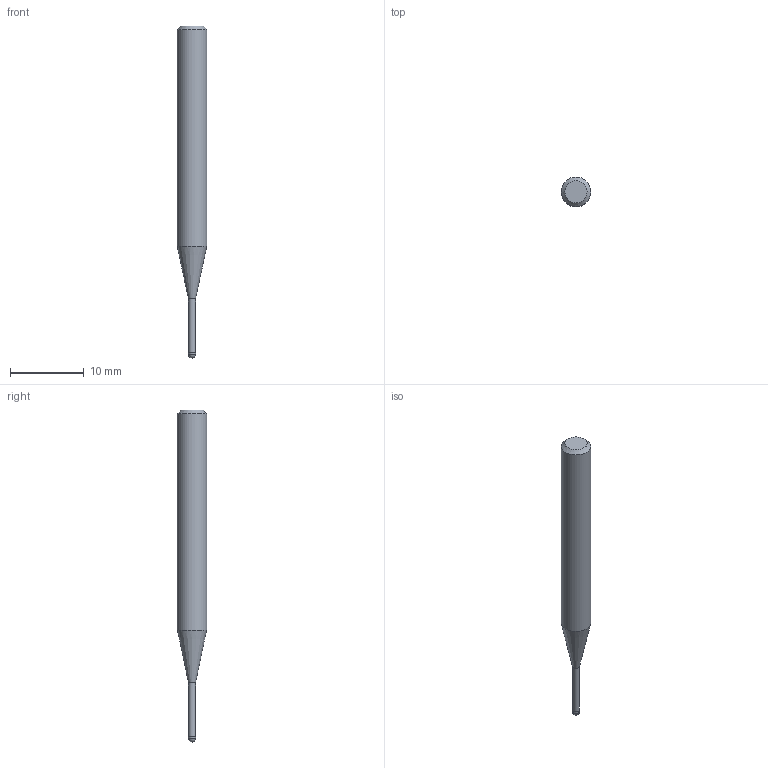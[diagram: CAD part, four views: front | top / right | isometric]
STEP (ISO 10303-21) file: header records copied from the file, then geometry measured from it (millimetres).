
FILE_DESCRIPTION((''),'2;1');
FILE_NAME('C:\Users\nsx150\AppData\Local\Temp\Mastercam 2021\3SYKECWX22\TEMP.step','2021-04-22T10:02:16',(''),(''),'STEP Write','Mastercam 2021 ... CNC Software, Inc.','');
FILE_SCHEMA(('AUTOMOTIVE_DESIGN'));
Length unit declared in the file: millimetre
Products named in the file (1): None
Bounding box: 4 x 4 x 45 mm (x, y, z)
Volume: 417.8 mm3; surface area: 465.9 mm2
Topology: 2 solids, 2 shells, 9 faces, 14 edges, 8 vertices
Faces by surface type: plane 3, cylinder 3, cone 2, sphere 1
Full cylindrical faces by diameter (mm): 0.95 x1, 1 x1, 4 x1
Entity records: 211 total; most frequent: DIRECTION 36, CARTESIAN_POINT 25, AXIS2_PLACEMENT_3D 18, ORIENTED_EDGE 14, EDGE_LOOP 14, STYLED_ITEM 12, ADVANCED_FACE 9, FACE_BOUND 8
